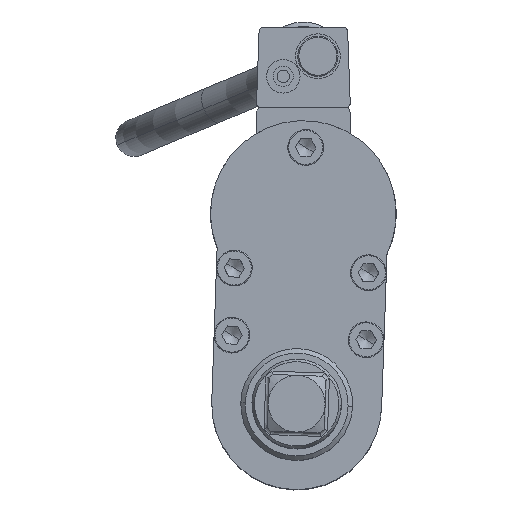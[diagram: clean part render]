
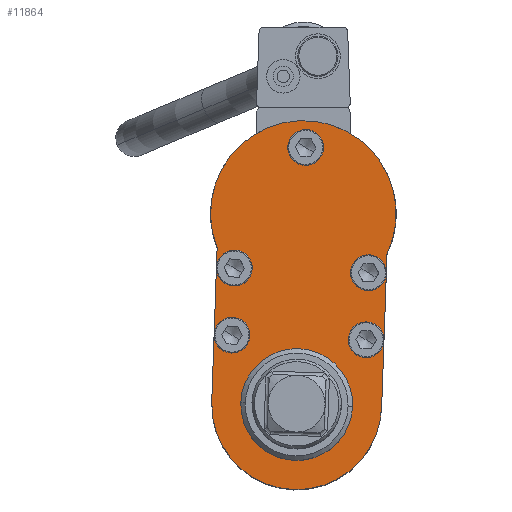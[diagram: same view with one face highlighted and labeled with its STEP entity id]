
A CAD part, top view. The second image highlights one B-rep face of the part: STEP entity #11864.
In plain terms, the highlighted planar face has unit normal (0, 0, 1).
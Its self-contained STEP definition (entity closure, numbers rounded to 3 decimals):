
#11720=AXIS2_PLACEMENT_3D('Plane Axis2P3D',#11717,#11718,#11719) ;
#11724=AXIS2_PLACEMENT_3D('Circle Axis2P3D',#11722,#11723,$) ;
#11740=AXIS2_PLACEMENT_3D('Circle Axis2P3D',#11738,#11739,$) ;
#11758=AXIS2_PLACEMENT_3D('Circle Axis2P3D',#11756,#11757,$) ;
#11767=AXIS2_PLACEMENT_3D('Circle Axis2P3D',#11765,#11766,$) ;
#11776=AXIS2_PLACEMENT_3D('Circle Axis2P3D',#11774,#11775,$) ;
#11785=AXIS2_PLACEMENT_3D('Circle Axis2P3D',#11783,#11784,$) ;
#11794=AXIS2_PLACEMENT_3D('Circle Axis2P3D',#11792,#11793,$) ;
#11803=AXIS2_PLACEMENT_3D('Circle Axis2P3D',#11801,#11802,$) ;
#11812=AXIS2_PLACEMENT_3D('Circle Axis2P3D',#11810,#11811,$) ;
#11821=AXIS2_PLACEMENT_3D('Circle Axis2P3D',#11819,#11820,$) ;
#11830=AXIS2_PLACEMENT_3D('Circle Axis2P3D',#11828,#11829,$) ;
#11839=AXIS2_PLACEMENT_3D('Circle Axis2P3D',#11837,#11838,$) ;
#11848=AXIS2_PLACEMENT_3D('Circle Axis2P3D',#11846,#11847,$) ;
#11857=AXIS2_PLACEMENT_3D('Circle Axis2P3D',#11855,#11856,$) ;
#11717=CARTESIAN_POINT('Axis2P3D Location',(-2.984,-85.448,484.6)) ;
#11722=CARTESIAN_POINT('Axis2P3D Location',(-2.984,-85.448,484.6)) ;
#11726=CARTESIAN_POINT('Vertex',(-40.961,-84.122,484.6)) ;
#11728=CARTESIAN_POINT('Vertex',(34.993,-86.774,484.6)) ;
#11731=CARTESIAN_POINT('Line Origine',(36.194,-52.385,484.6)) ;
#11735=CARTESIAN_POINT('Vertex',(37.395,-17.997,484.6)) ;
#11738=CARTESIAN_POINT('Axis2P3D Location',(0.,0.,484.6)) ;
#11742=CARTESIAN_POINT('Vertex',(-38.559,-15.344,484.6)) ;
#11745=CARTESIAN_POINT('Line Origine',(-39.76,-49.733,484.6)) ;
#11756=CARTESIAN_POINT('Axis2P3D Location',(1.03,29.482,484.6)) ;
#11760=CARTESIAN_POINT('Vertex',(-3.004,31.872,484.6)) ;
#11762=CARTESIAN_POINT('Vertex',(5.063,27.092,484.6)) ;
#11765=CARTESIAN_POINT('Axis2P3D Location',(1.03,29.482,484.6)) ;
#11774=CARTESIAN_POINT('Axis2P3D Location',(-31.919,-54.419,484.6)) ;
#11778=CARTESIAN_POINT('Vertex',(-35.952,-52.029,484.6)) ;
#11780=CARTESIAN_POINT('Vertex',(-27.885,-56.809,484.6)) ;
#11783=CARTESIAN_POINT('Axis2P3D Location',(-31.919,-54.419,484.6)) ;
#11792=CARTESIAN_POINT('Axis2P3D Location',(-2.984,-85.448,484.6)) ;
#11796=CARTESIAN_POINT('Vertex',(22.001,-86.32,484.6)) ;
#11798=CARTESIAN_POINT('Vertex',(-27.969,-84.575,484.6)) ;
#11801=CARTESIAN_POINT('Axis2P3D Location',(-2.984,-85.448,484.6)) ;
#11810=CARTESIAN_POINT('Axis2P3D Location',(28.045,-56.513,484.6)) ;
#11814=CARTESIAN_POINT('Vertex',(32.078,-58.903,484.6)) ;
#11816=CARTESIAN_POINT('Vertex',(24.012,-54.123,484.6)) ;
#11819=CARTESIAN_POINT('Axis2P3D Location',(28.045,-56.513,484.6)) ;
#11828=CARTESIAN_POINT('Axis2P3D Location',(-30.872,-24.437,484.6)) ;
#11832=CARTESIAN_POINT('Vertex',(-26.838,-26.827,484.6)) ;
#11834=CARTESIAN_POINT('Vertex',(-34.905,-22.048,484.6)) ;
#11837=CARTESIAN_POINT('Axis2P3D Location',(-30.872,-24.437,484.6)) ;
#11846=CARTESIAN_POINT('Axis2P3D Location',(29.092,-26.531,484.6)) ;
#11850=CARTESIAN_POINT('Vertex',(33.125,-28.921,484.6)) ;
#11852=CARTESIAN_POINT('Vertex',(25.059,-24.142,484.6)) ;
#11855=CARTESIAN_POINT('Axis2P3D Location',(29.092,-26.531,484.6)) ;
#11718=DIRECTION('Axis2P3D Direction',(-0.,0.,1.)) ;
#11719=DIRECTION('Axis2P3D XDirection',(0.999,-0.035,0.)) ;
#11723=DIRECTION('Axis2P3D Direction',(-0.,0.,1.)) ;
#11732=DIRECTION('Vector Direction',(0.035,0.999,0.)) ;
#11739=DIRECTION('Axis2P3D Direction',(-0.,0.,1.)) ;
#11746=DIRECTION('Vector Direction',(-0.035,-0.999,0.)) ;
#11757=DIRECTION('Axis2P3D Direction',(-0.,0.,1.)) ;
#11766=DIRECTION('Axis2P3D Direction',(-0.,0.,1.)) ;
#11775=DIRECTION('Axis2P3D Direction',(-0.,0.,1.)) ;
#11784=DIRECTION('Axis2P3D Direction',(-0.,0.,1.)) ;
#11793=DIRECTION('Axis2P3D Direction',(-0.,0.,1.)) ;
#11802=DIRECTION('Axis2P3D Direction',(-0.,0.,1.)) ;
#11811=DIRECTION('Axis2P3D Direction',(-0.,0.,1.)) ;
#11820=DIRECTION('Axis2P3D Direction',(-0.,0.,1.)) ;
#11829=DIRECTION('Axis2P3D Direction',(-0.,0.,1.)) ;
#11838=DIRECTION('Axis2P3D Direction',(-0.,0.,1.)) ;
#11847=DIRECTION('Axis2P3D Direction',(-0.,0.,1.)) ;
#11856=DIRECTION('Axis2P3D Direction',(-0.,0.,1.)) ;
#11733=VECTOR('Line Direction',#11732,1.) ;
#11747=VECTOR('Line Direction',#11746,1.) ;
#11751=ORIENTED_EDGE('',*,*,#11730,.T.) ;
#11752=ORIENTED_EDGE('',*,*,#11737,.T.) ;
#11753=ORIENTED_EDGE('',*,*,#11744,.T.) ;
#11754=ORIENTED_EDGE('',*,*,#11749,.T.) ;
#11771=ORIENTED_EDGE('',*,*,#11764,.F.) ;
#11772=ORIENTED_EDGE('',*,*,#11769,.F.) ;
#11789=ORIENTED_EDGE('',*,*,#11782,.F.) ;
#11790=ORIENTED_EDGE('',*,*,#11787,.F.) ;
#11807=ORIENTED_EDGE('',*,*,#11800,.F.) ;
#11808=ORIENTED_EDGE('',*,*,#11805,.F.) ;
#11825=ORIENTED_EDGE('',*,*,#11818,.F.) ;
#11826=ORIENTED_EDGE('',*,*,#11823,.F.) ;
#11843=ORIENTED_EDGE('',*,*,#11836,.F.) ;
#11844=ORIENTED_EDGE('',*,*,#11841,.F.) ;
#11861=ORIENTED_EDGE('',*,*,#11854,.F.) ;
#11862=ORIENTED_EDGE('',*,*,#11859,.F.) ;
#11773=FACE_BOUND('',#11770,.T.) ;
#11791=FACE_BOUND('',#11788,.T.) ;
#11809=FACE_BOUND('',#11806,.T.) ;
#11827=FACE_BOUND('',#11824,.T.) ;
#11845=FACE_BOUND('',#11842,.T.) ;
#11863=FACE_BOUND('',#11860,.T.) ;
#11864=ADVANCED_FACE('AO3325.1\\AO3360_Gehauese.1\\Hauptk\X2\00F6\X0\rper',(#11755,#11773,#11791,#11809,#11827,#11845,#11863),#11721,.T.) ;
#11725=CIRCLE('generated circle',#11724,38.) ;
#11741=CIRCLE('generated circle',#11740,41.5) ;
#11759=CIRCLE('generated circle',#11758,4.688) ;
#11768=CIRCLE('generated circle',#11767,4.688) ;
#11777=CIRCLE('generated circle',#11776,4.688) ;
#11786=CIRCLE('generated circle',#11785,4.688) ;
#11795=CIRCLE('generated circle',#11794,25.) ;
#11804=CIRCLE('generated circle',#11803,25.) ;
#11813=CIRCLE('generated circle',#11812,4.688) ;
#11822=CIRCLE('generated circle',#11821,4.688) ;
#11831=CIRCLE('generated circle',#11830,4.688) ;
#11840=CIRCLE('generated circle',#11839,4.688) ;
#11849=CIRCLE('generated circle',#11848,4.688) ;
#11858=CIRCLE('generated circle',#11857,4.688) ;
#11730=EDGE_CURVE('',#11727,#11729,#11725,.T.) ;
#11737=EDGE_CURVE('',#11729,#11736,#11734,.T.) ;
#11744=EDGE_CURVE('',#11736,#11743,#11741,.T.) ;
#11749=EDGE_CURVE('',#11743,#11727,#11748,.T.) ;
#11764=EDGE_CURVE('',#11761,#11763,#11759,.T.) ;
#11769=EDGE_CURVE('',#11763,#11761,#11768,.T.) ;
#11782=EDGE_CURVE('',#11779,#11781,#11777,.T.) ;
#11787=EDGE_CURVE('',#11781,#11779,#11786,.T.) ;
#11800=EDGE_CURVE('',#11797,#11799,#11795,.T.) ;
#11805=EDGE_CURVE('',#11799,#11797,#11804,.T.) ;
#11818=EDGE_CURVE('',#11815,#11817,#11813,.T.) ;
#11823=EDGE_CURVE('',#11817,#11815,#11822,.T.) ;
#11836=EDGE_CURVE('',#11833,#11835,#11831,.T.) ;
#11841=EDGE_CURVE('',#11835,#11833,#11840,.T.) ;
#11854=EDGE_CURVE('',#11851,#11853,#11849,.T.) ;
#11859=EDGE_CURVE('',#11853,#11851,#11858,.T.) ;
#11750=EDGE_LOOP('',(#11751,#11752,#11753,#11754)) ;
#11770=EDGE_LOOP('',(#11771,#11772)) ;
#11788=EDGE_LOOP('',(#11789,#11790)) ;
#11806=EDGE_LOOP('',(#11807,#11808)) ;
#11824=EDGE_LOOP('',(#11825,#11826)) ;
#11842=EDGE_LOOP('',(#11843,#11844)) ;
#11860=EDGE_LOOP('',(#11861,#11862)) ;
#11755=FACE_OUTER_BOUND('',#11750,.T.) ;
#11734=LINE('Line',#11731,#11733) ;
#11748=LINE('Line',#11745,#11747) ;
#11721=PLANE('Plane',#11720) ;
#11727=VERTEX_POINT('',#11726) ;
#11729=VERTEX_POINT('',#11728) ;
#11736=VERTEX_POINT('',#11735) ;
#11743=VERTEX_POINT('',#11742) ;
#11761=VERTEX_POINT('',#11760) ;
#11763=VERTEX_POINT('',#11762) ;
#11779=VERTEX_POINT('',#11778) ;
#11781=VERTEX_POINT('',#11780) ;
#11797=VERTEX_POINT('',#11796) ;
#11799=VERTEX_POINT('',#11798) ;
#11815=VERTEX_POINT('',#11814) ;
#11817=VERTEX_POINT('',#11816) ;
#11833=VERTEX_POINT('',#11832) ;
#11835=VERTEX_POINT('',#11834) ;
#11851=VERTEX_POINT('',#11850) ;
#11853=VERTEX_POINT('',#11852) ;
